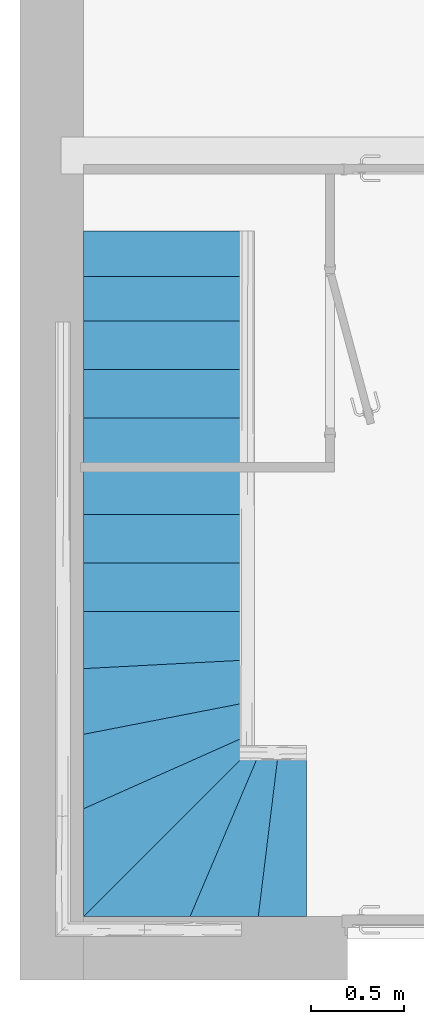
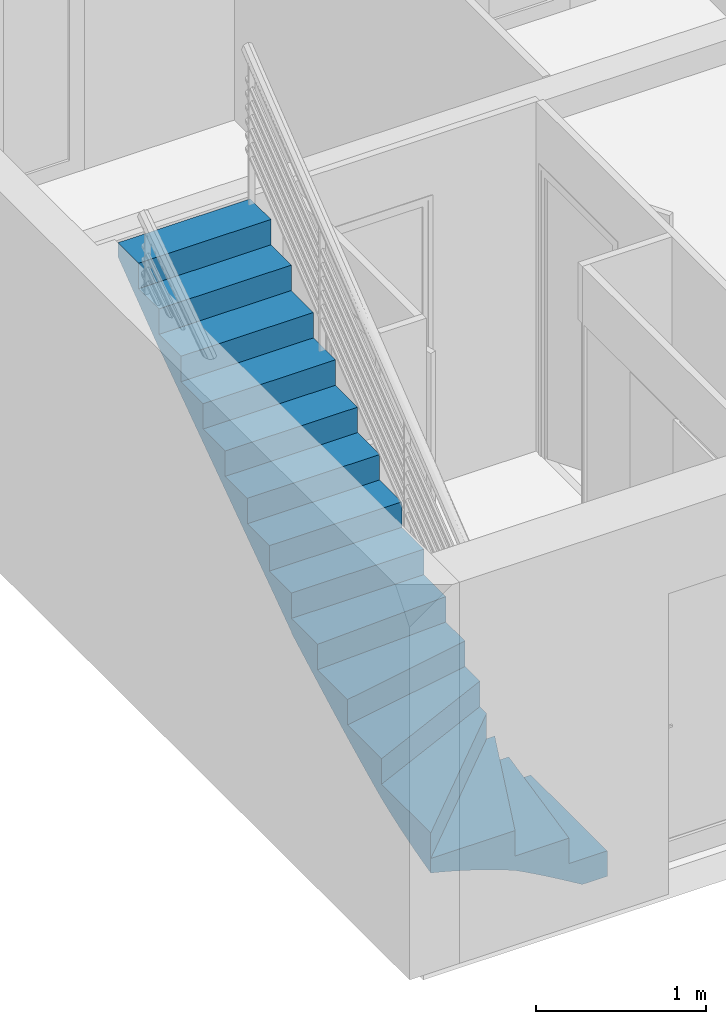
# One storey, part 8 of 9: 1 stair, 1 element without a shape of its own.
"""IFC2X3 building model written with IfcOpenShell, lengths in metres."""

import ifcopenshell
import ifcopenshell.guid

model = None  # the IFC model being written
_history = None  # IfcOwnerHistory: only IFC2X3 demands one
_inside = {}  # id of a spatial element -> (the spatial element, [elements in it])
_under = {}  # id of a project, library or spatial element -> (it, [spatial elements below it])
_declared = {}  # id of a project -> (the project, [libraries it declares])
_typed = {}  # id of a type object -> (the type object, [elements of that type])
_made_of = {}  # id of a material, layer set ... -> (it, [elements and type objects made of it])


def new_model(schema):
    """Start an empty IFC model of exactly this schema.

    Asked for "IFC4X3", IfcOpenShell would pick the latest addendum, in which some entities
    have other attributes; the version numbers below select the first issue.
    IFC2X3 requires an IfcOwnerHistory on every rooted entity: one is made here for all.
    """
    global model, _history
    if schema == "IFC4X3":
        model = ifcopenshell.file(schema_version=(4, 3, 0, 0))
    else:
        model = ifcopenshell.file(schema=schema)
    _inside.clear()
    _under.clear()
    _declared.clear()
    _typed.clear()
    _made_of.clear()
    _history = None
    if model.schema == "IFC2X3":
        org = make("IfcOrganization", Name="unknown")
        user = make(
            "IfcPersonAndOrganization",
            ThePerson=make("IfcPerson", FamilyName="unknown"),
            TheOrganization=org,
        )
        app = make(
            "IfcApplication",
            ApplicationDeveloper=org,
            Version="unknown",
            ApplicationFullName="unknown",
            ApplicationIdentifier="unknown",
        )
        _history = make(
            "IfcOwnerHistory",
            OwningUser=user,
            OwningApplication=app,
            ChangeAction="ADDED",
            CreationDate=0,
        )
    return model


def make(cls, **values):
    """One entity of the class cls with the attributes given. An attribute that is None is left unset."""
    return model.create_entity(
        cls, **{name: value for name, value in values.items() if value is not None}
    )


def entity(cls, *values):
    """Any entity or typed value of the class cls, its attributes in the order of the schema. None: left unset."""
    e = model.create_entity(cls)
    for i, value in enumerate(values):
        if value is not None:
            e[i] = value
    return e


def rooted(cls, **values):
    """An entity with a GlobalId (a new one), such as an element, a storey or a relation."""
    return make(cls, GlobalId=ifcopenshell.guid.new(), OwnerHistory=_history, **values)


def si_unit(unit_type, name, prefix=None):
    """IfcSIUnit, for example si_unit("LENGTHUNIT", "METRE", prefix="MILLI")."""
    return make("IfcSIUnit", UnitType=unit_type, Prefix=prefix, Name=name)


def converted_unit(unit_type, name, factor, base, dimensions=None, offset=None):
    """IfcConversionBasedUnit, such as the inch: factor (a typed value) times the base unit."""
    return make(
        "IfcConversionBasedUnit"
        if offset is None
        else "IfcConversionBasedUnitWithOffset",
        ConversionOffset=offset,
        Dimensions=None
        if dimensions is None
        else entity("IfcDimensionalExponents", *dimensions),
        UnitType=unit_type,
        Name=name,
        ConversionFactor=make(
            "IfcMeasureWithUnit", ValueComponent=factor, UnitComponent=base
        ),
    )


def derived_unit(unit_type, elements):
    """IfcDerivedUnit: a product of units, each with its exponent."""
    return make(
        "IfcDerivedUnit",
        Elements=[
            make("IfcDerivedUnitElement", Unit=unit, Exponent=power)
            for unit, power in elements
        ],
        UnitType=unit_type,
    )


def assignment(units):
    """IfcUnitAssignment: the units of a project."""
    return None if units is None else make("IfcUnitAssignment", Units=units)


def point(xyz):
    """IfcCartesianPoint."""
    return None if xyz is None else make("IfcCartesianPoint", Coordinates=xyz)


def direction(xyz):
    """IfcDirection."""
    return None if xyz is None else make("IfcDirection", DirectionRatios=xyz)


def frame(location, z_axis=None, x_axis=None):
    """IfcAxis2Placement3D, a coordinate frame: its origin and axes. An axis left out is left unset."""
    return make(
        "IfcAxis2Placement3D",
        Location=point(location),
        Axis=direction(z_axis),
        RefDirection=direction(x_axis),
    )


def origin():
    """The frame at (0, 0, 0) with its axes left unset."""
    return frame((0.0, 0.0, 0.0))


def place(relative_to, where):
    """IfcLocalPlacement: puts the frame where relative to a parent placement (None: the world)."""
    return make(
        "IfcLocalPlacement", PlacementRelTo=relative_to, RelativePlacement=where
    )


def context(
    kind, dimensions, precision=None, world=None, true_north=None, identifier=None
):
    """IfcGeometricRepresentationContext, for example the 3D "Model" context."""
    return make(
        "IfcGeometricRepresentationContext",
        ContextIdentifier=identifier,
        ContextType=kind,
        CoordinateSpaceDimension=dimensions,
        Precision=precision,
        WorldCoordinateSystem=world,
        TrueNorth=true_north,
    )


def subcontext(parent, identifier, kind, view, scale=None):
    """IfcGeometricRepresentationSubContext, for example "Body" below "Model"."""
    return make(
        "IfcGeometricRepresentationSubContext",
        ContextIdentifier=identifier,
        ContextType=kind,
        ParentContext=parent,
        TargetScale=scale,
        TargetView=view,
    )


def project(units=None, contexts=None):
    """IfcProject with its units and contexts."""
    return rooted(
        "IfcProject",
        Name="project",
        RepresentationContexts=contexts,
        UnitsInContext=assignment(units),
    )


def spatial(cls, under=None, at=None, **own):
    """A site, building, storey or space (cls), placed at a placement, below another one or the project."""
    s = rooted(cls, ObjectPlacement=at, **own)
    if under is not None:
        _under.setdefault(under.id(), (under, []))[1].append(s)
    return s


def faces_of(points, faces, orient=None, outer=None):
    """IfcFace entities. A face is a list of loops; a loop is a list of indices into points, from 0.

    orient and outer hold one flag for each loop. By default every Orientation is true, the
    first loop of a face is its IfcFaceOuterBound and the others are IfcFaceBound.
    """
    made = []
    for i, loops in enumerate(faces):
        bounds = []
        for j, loop in enumerate(loops):
            is_outer = j == 0 if outer is None else outer[i][j]
            bounds.append(
                make(
                    "IfcFaceOuterBound" if is_outer else "IfcFaceBound",
                    Bound=make("IfcPolyLoop", Polygon=[points[k] for k in loop]),
                    Orientation=True if orient is None else orient[i][j],
                )
            )
        made.append(make("IfcFace", Bounds=bounds))
    return made


def faceted_brep(points, faces, orient=None, outer=None, voids=None):
    """IfcFacetedBrep: a solid bounded by flat faces; with voids (closed shells), ...WithVoids."""
    shared = [point(p) for p in points]
    hull = make("IfcClosedShell", CfsFaces=faces_of(shared, faces, orient, outer))
    if voids is None:
        return make("IfcFacetedBrep", Outer=hull)
    return make(
        "IfcFacetedBrepWithVoids",
        Outer=hull,
        Voids=[
            make(cls, CfsFaces=faces_of(shared, fs, o, b)) for cls, fs, o, b in voids
        ],
    )


def shape(context_of_items, identifier, shape_type, items):
    """IfcShapeRepresentation: the items that make up one representation, for example the "Body"."""
    return make(
        "IfcShapeRepresentation",
        ContextOfItems=context_of_items,
        RepresentationIdentifier=identifier,
        RepresentationType=shape_type,
        Items=items,
    )


def material(Name=None, Category=None):
    """IfcMaterial."""
    return make("IfcMaterial", Name=Name, Category=Category)


def made_of(thing, what):
    """Note that an element or type object is made of a material, layer set ...; save() writes the relation."""
    if what is not None:
        _made_of.setdefault(what.id(), (what, []))[1].append(thing)
    return thing


def element(
    cls,
    number,
    at=None,
    inside=None,
    cuts=None,
    type_object=None,
    material=None,
    context=None,
    identifier="Body",
    shape_type=None,
    held_by="IfcProductDefinitionShape",
    body=None,
    shapes=None,
    **own,
):
    """One element of the class cls, such as IfcWall. Its Tag is "e" and its number.

    at: its placement. inside: the storey or other place that contains it. cuts: it is an
    opening in that element (IfcRelVoidsElement). A single representation is given by context,
    identifier, shape_type and body (its items); several are given by shapes. held_by: the class
    of the entity that holds the representations. save() writes the other relations.
    """
    e = rooted(cls, Tag="e%d" % number, ObjectPlacement=at, **own)
    if body is not None:
        shapes = [shape(context, identifier, shape_type, body)]
    if shapes is not None:
        e.Representation = make(held_by, Representations=shapes)
    if inside is not None:
        _inside.setdefault(inside.id(), (inside, []))[1].append(e)
    if cuts is not None:
        rooted(
            "IfcRelVoidsElement", RelatingBuildingElement=cuts, RelatedOpeningElement=e
        )
    if type_object is not None:
        _typed.setdefault(type_object.id(), (type_object, []))[1].append(e)
    return made_of(e, material)


def aggregate(whole, parts):
    """IfcRelAggregates: a whole, such as a stair, and the parts it consists of."""
    return rooted("IfcRelAggregates", RelatingObject=whole, RelatedObjects=parts)


def save(model, path):
    """Write the relations noted so far, then the file.

    IfcRelAggregates (storeys below a building ...), IfcRelContainedInSpatialStructure (elements
    in a storey), IfcRelDefinesByType, IfcRelAssociatesMaterial and IfcRelDeclares: one each for
    every whole, place, type object, material and project.
    """
    for whole, parts in _under.values():
        aggregate(whole, parts)
    for where, things in _inside.values():
        rooted(
            "IfcRelContainedInSpatialStructure",
            RelatedElements=things,
            RelatingStructure=where,
        )
    for kind, things in _typed.values():
        rooted("IfcRelDefinesByType", RelatedObjects=things, RelatingType=kind)
    for what, things in _made_of.values():
        rooted("IfcRelAssociatesMaterial", RelatedObjects=things, RelatingMaterial=what)
    for by, libraries in _declared.values():
        rooted("IfcRelDeclares", RelatingContext=by, RelatedDefinitions=libraries)
    model.write(path)


model = new_model("IFC2X3")

# Units and contexts
model_context = context("Model", 3, precision=1e-05, world=origin(), true_north=direction((6.12303176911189e-17, 1.0)))
body_context = subcontext(model_context, "Body", "Model", "MODEL_VIEW")
ifc_project = project(units=[si_unit("LENGTHUNIT", "METRE"), si_unit("AREAUNIT", "SQUARE_METRE"), si_unit("VOLUMEUNIT", "CUBIC_METRE"), converted_unit("PLANEANGLEUNIT", "DEGREE", entity("IfcRatioMeasure", 0.0174532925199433), si_unit("PLANEANGLEUNIT", "RADIAN"), dimensions=[0, 0, 0, 0, 0, 0, 0]), si_unit("MASSUNIT", "GRAM", prefix="KILO"), si_unit("TIMEUNIT", "SECOND"), si_unit("FREQUENCYUNIT", "HERTZ"), si_unit("THERMODYNAMICTEMPERATUREUNIT", "DEGREE_CELSIUS"), derived_unit("THERMALTRANSMITTANCEUNIT", [(si_unit("MASSUNIT", "GRAM", prefix="KILO"), 1), (si_unit("THERMODYNAMICTEMPERATUREUNIT", "KELVIN"), -1), (si_unit("TIMEUNIT", "SECOND"), -3)]), derived_unit("VOLUMETRICFLOWRATEUNIT", [(si_unit("LENGTHUNIT", "METRE"), 3), (si_unit("TIMEUNIT", "SECOND"), -1)]), si_unit("ELECTRICCURRENTUNIT", "AMPERE"), si_unit("ELECTRICVOLTAGEUNIT", "VOLT"), si_unit("POWERUNIT", "WATT"), si_unit("FORCEUNIT", "NEWTON", prefix="KILO"), si_unit("ILLUMINANCEUNIT", "LUX"), si_unit("LUMINOUSFLUXUNIT", "LUMEN"), si_unit("LUMINOUSINTENSITYUNIT", "CANDELA"), derived_unit("USERDEFINED", [(si_unit("MASSUNIT", "GRAM", prefix="KILO"), -1), (si_unit("LENGTHUNIT", "METRE"), -2), (si_unit("TIMEUNIT", "SECOND"), 3), (si_unit("LUMINOUSFLUXUNIT", "LUMEN"), 1)]), derived_unit("LINEARVELOCITYUNIT", [(si_unit("LENGTHUNIT", "METRE"), 1), (si_unit("TIMEUNIT", "SECOND"), -1)]), si_unit("PRESSUREUNIT", "PASCAL"), derived_unit("USERDEFINED", [(si_unit("LENGTHUNIT", "METRE"), -2), (si_unit("MASSUNIT", "GRAM", prefix="KILO"), 1), (si_unit("TIMEUNIT", "SECOND"), -2)])], contexts=[model_context])

# Site, building, storey
site_placement = place(None, origin())
site = spatial("IfcSite", under=ifc_project, at=site_placement, Name="Surface", CompositionType="ELEMENT")
building_placement = place(site_placement, origin())
building = spatial("IfcBuilding", under=site, at=building_placement, CompositionType="ELEMENT")
storey_placement = place(building_placement, origin())
storey = spatial("IfcBuildingStorey", under=building, at=storey_placement, Name="Rez de chaussée", CompositionType="ELEMENT", Elevation=0.0)

# Stairs
stair_1_placement = place(storey_placement, frame((-11.297684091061, -2.47733948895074, -0.0015952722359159)))
stair_1 = element("IfcStair", 1, at=stair_1_placement, inside=storey, Name="Escalier:Monobloc", ObjectType="Escalier:Monobloc", ShapeType="NOTDEFINED")
ifc_material = material(Name="Maçonnerie - Béton")
stair_2_placement = place(stair_1_placement, origin())
stair_2 = element("IfcStair", 2, at=stair_2_placement, material=ifc_material, Name="Escalier:Monobloc", ObjectType="Escalier:Monobloc", ShapeType="NOTDEFINED", context=body_context, shape_type="Brep", body=[
    faceted_brep([(0.57472555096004, 0.00159527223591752, 0.262732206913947), (0.504661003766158, 0.00159527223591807, 0.290123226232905), (0.601958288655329, 0.065751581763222, 0.262732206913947), (0.901595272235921, 0.939595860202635, 0.495475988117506), (0.764378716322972, 0.845510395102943, 0.519122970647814), (0.901595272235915, 0.955108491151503, 0.539188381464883), (0.55785241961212, 0.168258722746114, 0.303080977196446), (0.732897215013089, 0.504705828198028, 0.304501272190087), (0.819948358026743, 0.57930400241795, 0.262732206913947), (0.792587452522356, 0.514845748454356, 0.262732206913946), (0.765354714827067, 0.450689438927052, 0.262732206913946), (0.738121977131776, 0.386533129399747, 0.262732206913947), (0.432242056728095, 0.772625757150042, 0.628065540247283), (0.510467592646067, 0.807454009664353, 0.628065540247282), (0.588693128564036, 0.842282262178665, 0.628065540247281), (0.494920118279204, 0.742896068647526, 0.584646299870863), (0.354016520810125, 0.737797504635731, 0.628065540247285), (0.358599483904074, 0.222199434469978, 0.398055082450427), (0.476735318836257, 0.190100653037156, 0.343173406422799), (0.29154816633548, 0.00159527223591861, 0.364517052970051), (0.434093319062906, 0.00159527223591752, 0.316253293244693), (0.3630492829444, 0.00159527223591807, 0.34106012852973), (0.656423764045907, 0.194064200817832, 0.262732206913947), (0.629191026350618, 0.129907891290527, 0.262732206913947), (0.683656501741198, 0.258220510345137, 0.262732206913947), (0.902031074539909, 0.77267876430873, 0.262732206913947), (0.834728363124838, 0.688328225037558, 0.299425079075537), (0.940319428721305, 0.901595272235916, 0.312832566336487), (0.901595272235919, 0.901595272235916, 0.410913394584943), (0.922127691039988, 0.901595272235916, 0.362338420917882), (0.783385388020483, 0.730721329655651, 0.383923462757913), (0.219617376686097, 0.00159527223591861, 0.386621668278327), (0.194123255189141, 0.17907130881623, 0.439703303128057), (0.65423499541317, 0.746794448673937, 0.50524235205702), (0.743248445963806, 0.790746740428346, 0.476890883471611), (0.378490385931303, 0.486681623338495, 0.486455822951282), (0.208058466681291, 0.426260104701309, 0.518066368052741), (0.393373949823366, 0.584035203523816, 0.527453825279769), (0.77475001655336, 0.641754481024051, 0.333579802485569), (0.675090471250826, 0.501551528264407, 0.343053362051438), (0.86138203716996, 0.779081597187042, 0.329306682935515), (0.13623329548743, 0.248676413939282, 0.477056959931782), (0.00159527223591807, 0.222040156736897, 0.503346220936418), (0.0015952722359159, 0.29476053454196, 0.525470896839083), (0.789314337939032, 0.794182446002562, 0.434603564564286), (0.0746037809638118, 0.00159527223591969, 0.42686933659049), (0.147290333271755, 0.00159527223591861, 0.40739327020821), (0.874670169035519, 0.708220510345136, 0.262732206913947), (0.84730926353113, 0.643762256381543, 0.262732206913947), (0.317195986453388, 0.350437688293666, 0.454677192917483), (0.823369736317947, 0.946767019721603, 0.628065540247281), (0.716693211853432, 0.872744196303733, 0.592739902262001), (0.666918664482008, 0.877110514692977, 0.628065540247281), (0.745144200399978, 0.91193876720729, 0.628065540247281), (0.956752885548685, 0.901595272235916, 0.262732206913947), (0.929391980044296, 0.837137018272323, 0.262732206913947), (0.791259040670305, 0.893652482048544, 0.561272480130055), (0.658224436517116, 0.659794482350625, 0.437901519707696), (0.678638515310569, 0.585185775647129, 0.379757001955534), (0.613662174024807, 0.331672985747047, 0.31924231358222), (0.578573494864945, 0.437215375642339, 0.374168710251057), (0.449686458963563, 0.379649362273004, 0.41395128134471), (0.489688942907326, 0.50444016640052, 0.44765446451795), (0.710889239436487, 0.322376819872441, 0.262732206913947), (0.475307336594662, 0.30855872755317, 0.378275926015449), (0.55735873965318, 0.643208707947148, 0.488220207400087), (0.232765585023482, 0.358354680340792, 0.485332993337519), (0.901595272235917, 0.968980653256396, 0.583455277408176), (0.0015952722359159, 0.0754166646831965, 0.463214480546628), (0.00159527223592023, 0.148911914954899, 0.482609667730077), (0.523700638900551, 0.701439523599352, 0.543055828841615), (0.277554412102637, 0.605475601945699, 0.576430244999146), (0.578442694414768, 0.523093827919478, 0.411219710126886), (0.136108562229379, 0.527272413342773, 0.577980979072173), (0.00159527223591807, 0.36703479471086, 0.549012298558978), (0.00159527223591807, 0.438829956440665, 0.573976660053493), (0.00159527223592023, 0.51012144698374, 0.600344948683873), (0.00159527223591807, 0.58088945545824, 0.62806554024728), (0.0669186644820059, 0.609973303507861, 0.628065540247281), (0.197565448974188, 0.6681409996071, 0.62806554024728), (0.275790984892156, 0.702969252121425, 0.628065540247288), (0.132242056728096, 0.639057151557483, 0.628065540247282), (0.901595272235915, 0.921954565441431, 0.452585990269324), (0.65469157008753, 0.808963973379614, 0.561457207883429), (0.901595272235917, 0.981595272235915, 0.62806554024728), (0.0015952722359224, 0.00159527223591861, 0.445100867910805), (0.00159527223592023, 1.64159527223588, 1.18249171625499), (0.901595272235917, 1.64159527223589, 1.18249171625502), (0.901595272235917, 1.64159527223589, 1.17606554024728), (0.45159527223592, 1.64159527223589, 1.17606554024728), (0.00159527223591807, 1.64159527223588, 1.17606554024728), (0.00159527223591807, 1.52527025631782, 1.11223698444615), (0.455413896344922, 1.50325919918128, 1.08238395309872), (0.0015952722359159, 0.701145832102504, 0.684197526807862), (0.364566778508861, 1.19158970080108, 0.889221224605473), (0.441131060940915, 1.30419657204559, 0.951115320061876), (0.901595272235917, 1.3541099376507, 0.925460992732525), (0.00159527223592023, 1.05748724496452, 0.861515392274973), (0.00159527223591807, 1.17504843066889, 0.923069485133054), (0.438643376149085, 0.910195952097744, 0.705584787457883), (0.901595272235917, 1.42648379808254, 0.987538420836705), (0.392720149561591, 1.39843754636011, 1.01709821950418), (0.901595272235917, 1.4984267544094, 1.05010521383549), (0.901595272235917, 1.20757274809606, 0.803440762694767), (0.901595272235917, 1.13317758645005, 0.743817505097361), (0.348668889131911, 0.983440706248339, 0.766902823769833), (0.00159527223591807, 0.820627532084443, 0.741915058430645), (0.0015952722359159, 0.939384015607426, 0.801074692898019), (0.901595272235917, 1.05787997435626, 0.685310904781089), (0.438867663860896, 1.10851896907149, 0.826118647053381), (0.00159527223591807, 1.29212060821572, 0.985515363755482), (0.00159527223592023, 1.40881963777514, 1.04864399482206), (0.901595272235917, 1.28116853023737, 0.864031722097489), (0.901595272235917, 1.570080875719, 1.11300047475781), (0.0015952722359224, 3.20159527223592, 2.27849171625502), (0.901595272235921, 3.20159527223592, 2.27849171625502), (1.0515952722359, 0.901595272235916, 0.184261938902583), (0.941595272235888, 0.00159527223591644, 0.184261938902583), (1.20159527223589, 0.00159527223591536, 0.184261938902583), (1.20159527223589, 0.901595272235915, 0.184261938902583), (0.57472555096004, 0.00159527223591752, 0.366928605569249), (0.941595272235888, 0.00159527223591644, 0.366928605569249), (1.0515952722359, 0.901595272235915, 0.366928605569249), (0.956752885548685, 0.901595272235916, 0.366928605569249), (0.00159527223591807, 0.00159527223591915, 0.549595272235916), (0.57472555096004, 0.00159527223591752, 0.549595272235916), (0.956752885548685, 0.901595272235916, 0.549595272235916), (0.901595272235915, 0.901595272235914, 0.549595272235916), (0.901595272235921, 3.44159527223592, 2.55892860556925), (0.0015952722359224, 3.44159527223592, 2.55892860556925), (0.0015952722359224, 3.20159527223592, 2.55892860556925), (0.901595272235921, 3.20159527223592, 2.55892860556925), (0.901595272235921, 3.68542903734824, 2.74159527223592), (0.0015952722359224, 3.68542903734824, 2.74159527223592), (0.0015952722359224, 3.44159527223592, 2.74159527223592), (0.901595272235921, 3.44159527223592, 2.74159527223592), (1.07776950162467, 0.401595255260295, 0.0015952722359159), (1.08926879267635, 0.501595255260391, 0.0015952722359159), (1.10076806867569, 0.601595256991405, 0.0015952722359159), (1.11226733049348, 0.701595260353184, 0.0015952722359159), (1.1237665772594, 0.801595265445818, 0.0015952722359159), (1.13526580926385, 0.901595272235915, 0.0015952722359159), (1.20159527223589, 0.901595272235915, 0.0015952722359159), (1.20159527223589, 0.00159527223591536, 0.0015952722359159), (1.03177218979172, 0.0015952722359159, 0.0015952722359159), (1.04327153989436, 0.101595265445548, 0.0015952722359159), (1.0547708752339, 0.201595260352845, 0.0015952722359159), (1.06627019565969, 0.301595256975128, 0.0015952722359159), (0.967417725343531, 0.00159527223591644, 0.0405202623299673), (0.973690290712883, 0.236649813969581, 0.0625937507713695), (0.902832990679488, 0.00159527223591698, 0.0790606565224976), (0.903766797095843, 0.259113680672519, 0.115431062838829), (0.988708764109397, 0.466992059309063, 0.0862027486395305), (0.994124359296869, 0.901595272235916, 0.211630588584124), (0.954616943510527, 0.676152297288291, 0.169192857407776), (0.881653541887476, 0.592684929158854, 0.212865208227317), (0.837962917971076, 0.00159527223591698, 0.117117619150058), (0.772757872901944, 0.00159527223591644, 0.154596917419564), (0.881441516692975, 0.44525359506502, 0.170874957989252), (1.10088719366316, 0.901595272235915, 0.0547096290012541), (1.06601752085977, 0.901595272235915, 0.107498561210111), (0.707174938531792, 0.00159527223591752, 0.19141053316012), (0.786735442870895, 0.330030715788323, 0.212894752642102), (0.64117864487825, 0.00159527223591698, 0.227477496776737), (1.03048634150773, 0.901595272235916, 0.159847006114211), (0.00159527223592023, 3.20159527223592, 2.27601755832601), (0.0015952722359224, 3.68542903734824, 2.64135089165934), (0.901595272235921, 3.68542903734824, 2.64135089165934), (0.901595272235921, 3.20159527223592, 2.27601755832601), (0.0015952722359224, 3.20159527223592, 2.37626193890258), (0.901595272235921, 3.20159527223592, 2.37626193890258), (0.901595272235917, 0.901595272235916, 0.732261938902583), (0.901595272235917, 0.981595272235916, 0.732261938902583), (0.00159527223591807, 0.580889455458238, 0.732261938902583), (0.00159527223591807, 0.00159527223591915, 0.732261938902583), (0.00159527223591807, 0.580889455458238, 0.914928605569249), (0.00159527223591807, 0.98125338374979, 0.914928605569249), (0.00159527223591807, 0.98125338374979, 1.09759527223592), (0.00159527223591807, 1.33442827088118, 1.09759527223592), (0.00159527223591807, 1.33442827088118, 1.28026193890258), (0.00159527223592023, 1.64159527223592, 1.28026193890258), (0.00159527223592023, 1.64159527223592, 1.46292860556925), (0.00159527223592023, 1.90159527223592, 1.46292860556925), (0.00159527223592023, 1.90159527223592, 1.64559527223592), (0.00159527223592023, 2.16159527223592, 1.64559527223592), (0.00159527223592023, 2.16159527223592, 1.82826193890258), (0.00159527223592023, 2.42159527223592, 1.82826193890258), (0.00159527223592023, 2.42159527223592, 2.01092860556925), (0.00159527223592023, 2.68159527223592, 2.01092860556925), (0.00159527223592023, 2.68159527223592, 2.19359527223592), (0.00159527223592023, 2.94159527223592, 2.19359527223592), (0.00159527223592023, 2.94159527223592, 2.37626193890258), (0.901595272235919, 2.42159527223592, 1.82826193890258), (0.901595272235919, 2.16159527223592, 1.82826193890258), (0.901595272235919, 2.16159527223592, 1.64559527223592), (0.901595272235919, 1.90159527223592, 1.64559527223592), (0.901595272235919, 1.90159527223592, 1.46292860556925), (0.901595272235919, 1.64159527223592, 1.46292860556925), (0.901595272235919, 1.64159527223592, 1.28026193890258), (0.901595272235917, 1.38159527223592, 1.28026193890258), (0.901595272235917, 1.38159527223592, 1.09759527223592), (0.901595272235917, 1.15619566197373, 1.09759527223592), (0.901595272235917, 1.15619566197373, 0.914928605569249), (0.901595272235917, 0.981595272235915, 0.914928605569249), (0.901595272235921, 2.94159527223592, 2.37626193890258), (0.901595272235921, 2.94159527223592, 2.19359527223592), (0.901595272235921, 2.68159527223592, 2.19359527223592), (0.901595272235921, 2.68159527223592, 2.01092860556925), (0.901595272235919, 2.42159527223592, 2.01092860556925)], [[[0, 1, 2]], [[3, 4, 5]], [[1, 6, 2]], [[7, 8, 9, 10, 11]], [[12, 13, 14, 15, 16]], [[17, 18, 19]], [[6, 1, 20]], [[21, 18, 20]], [[18, 6, 20]], [[22, 23, 2, 6, 24]], [[25, 26, 27]], [[28, 29, 30]], [[31, 32, 17]], [[33, 4, 34]], [[35, 36, 37]], [[38, 7, 39]], [[30, 29, 40]], [[41, 42, 43]], [[30, 44, 28]], [[45, 32, 46]], [[25, 47, 48, 8, 26]], [[49, 32, 41]], [[50, 51, 14, 52, 53]], [[27, 54, 55, 25]], [[4, 56, 5]], [[34, 44, 57]], [[8, 7, 26]], [[38, 39, 58]], [[39, 59, 60]], [[61, 49, 62]], [[24, 59, 11, 63]], [[7, 38, 26]], [[19, 31, 17]], [[7, 11, 59]], [[27, 26, 40]], [[59, 18, 64]], [[65, 62, 35]], [[66, 49, 41]], [[56, 67, 5]], [[41, 68, 69]], [[67, 56, 51]], [[15, 70, 71]], [[40, 26, 38]], [[36, 41, 43]], [[69, 42, 41]], [[16, 15, 71]], [[61, 62, 72]], [[68, 41, 32]], [[73, 74, 75]], [[64, 17, 61]], [[43, 74, 36]], [[65, 34, 57]], [[37, 71, 70]], [[76, 77, 78]], [[79, 80, 16, 71]], [[46, 32, 31]], [[81, 79, 73, 78]], [[30, 38, 58]], [[71, 73, 79]], [[44, 34, 82]], [[75, 76, 73]], [[30, 40, 38]], [[82, 28, 44]], [[36, 74, 73]], [[82, 34, 3]], [[83, 51, 56]], [[73, 76, 78]], [[68, 32, 45]], [[37, 36, 71]], [[4, 3, 34]], [[14, 51, 15]], [[15, 51, 83]], [[15, 83, 70]], [[50, 84, 67]], [[17, 32, 49]], [[19, 18, 21]], [[50, 67, 51]], [[36, 73, 71]], [[62, 65, 57]], [[44, 30, 57]], [[56, 4, 83]], [[68, 45, 85]], [[29, 27, 40]], [[33, 34, 65]], [[57, 58, 72]], [[35, 62, 49]], [[33, 83, 4]], [[65, 37, 70]], [[59, 39, 7]], [[39, 60, 58]], [[72, 58, 60]], [[57, 30, 58]], [[60, 64, 61]], [[57, 72, 62]], [[60, 61, 72]], [[49, 61, 17]], [[18, 59, 6]], [[6, 59, 24]], [[59, 64, 60]], [[18, 17, 64]], [[35, 49, 66]], [[65, 35, 37]], [[65, 70, 33]], [[83, 33, 70]], [[41, 36, 66]], [[35, 66, 36]], [[86, 87, 88, 89, 90]], [[91, 89, 92]], [[78, 77, 93, 80, 79, 81]], [[94, 95, 96]], [[97, 98, 94]], [[80, 93, 99]], [[16, 80, 99, 52, 14, 13, 12]], [[100, 101, 102]], [[103, 104, 105]], [[106, 107, 105]], [[53, 52, 108, 84, 50]], [[105, 109, 103]], [[110, 111, 101]], [[101, 92, 102]], [[108, 52, 99]], [[93, 106, 99]], [[105, 107, 109]], [[96, 112, 94]], [[94, 98, 95]], [[88, 113, 89]], [[110, 101, 95]], [[107, 97, 109]], [[101, 111, 92]], [[97, 94, 109]], [[90, 89, 91]], [[106, 105, 99]], [[91, 92, 111]], [[98, 110, 95]], [[104, 99, 105]], [[109, 112, 103]], [[94, 112, 109]], [[100, 96, 95]], [[95, 101, 100]], [[113, 102, 92]], [[92, 89, 113]], [[104, 108, 99]], [[86, 114, 115, 87]], [[116, 117, 118, 119]], [[120, 121, 122, 123]], [[124, 125, 126, 127]], [[128, 129, 130, 131]], [[132, 133, 134, 135]], [[136, 137, 138, 139, 140, 141, 142, 143, 144, 145, 146, 147]], [[148, 146, 145]], [[149, 148, 150]], [[145, 144, 148]], [[151, 152, 149]], [[153, 154, 155]], [[150, 156, 151]], [[149, 147, 146]], [[157, 158, 151]], [[139, 138, 159]], [[141, 140, 159]], [[139, 159, 140]], [[136, 152, 137]], [[159, 138, 152]], [[151, 149, 150]], [[159, 152, 160]], [[152, 138, 137]], [[157, 161, 162]], [[22, 162, 163]], [[149, 152, 136]], [[9, 155, 162]], [[63, 11, 10, 9, 162, 22, 24]], [[162, 161, 163]], [[0, 2, 23, 22, 163]], [[136, 147, 149]], [[160, 152, 154]], [[158, 154, 152]], [[154, 153, 164]], [[157, 151, 156]], [[155, 9, 8, 48, 47, 25]], [[157, 162, 158]], [[155, 158, 162]], [[158, 155, 154]], [[146, 148, 149]], [[158, 152, 151]], [[154, 164, 160]], [[55, 54, 153, 25]], [[25, 153, 155]], [[165, 166, 167, 168]], [[165, 168, 115, 114]], [[131, 130, 169, 170]], [[124, 85, 45, 46, 31, 19, 21, 20, 1, 0, 163, 161, 157, 156, 150, 148, 144, 143, 118, 117, 121, 120, 125]], [[119, 118, 143, 142]], [[126, 123, 122, 116, 119, 142, 141, 159, 160, 164, 153, 54, 27, 29, 28, 127]], [[122, 121, 117, 116]], [[126, 125, 120, 123]], [[171, 172, 173, 174]], [[133, 166, 165, 114, 86, 90, 91, 111, 110, 98, 97, 107, 106, 93, 77, 76, 75, 74, 43, 42, 69, 68, 85, 124, 174, 173, 175, 176, 177, 178, 179, 180, 181, 182, 183, 184, 185, 186, 187, 188, 189, 190, 191, 169, 130, 129, 134]], [[171, 174, 124, 127]], [[192, 193, 194, 195, 196, 197, 198, 199, 200, 201, 202, 203, 172, 171, 127, 28, 82, 3, 5, 67, 84, 108, 104, 103, 112, 96, 100, 102, 113, 88, 87, 115, 168, 167, 132, 135, 128, 131, 170, 204, 205, 206, 207, 208]], [[203, 202, 176, 175]], [[203, 175, 173, 172]], [[200, 178, 177, 201]], [[201, 177, 176, 202]], [[198, 180, 179, 199]], [[199, 179, 178, 200]], [[196, 182, 181, 197]], [[197, 181, 180, 198]], [[194, 184, 183, 195]], [[195, 183, 182, 196]], [[192, 186, 185, 193]], [[193, 185, 184, 194]], [[207, 188, 187, 208]], [[208, 187, 186, 192]], [[205, 190, 189, 206]], [[206, 189, 188, 207]], [[170, 169, 191, 204]], [[204, 191, 190, 205]], [[135, 134, 129, 128]], [[133, 132, 167, 166]]]),
])
aggregate(stair_1, [stair_2])

save(model, "model.ifc")
